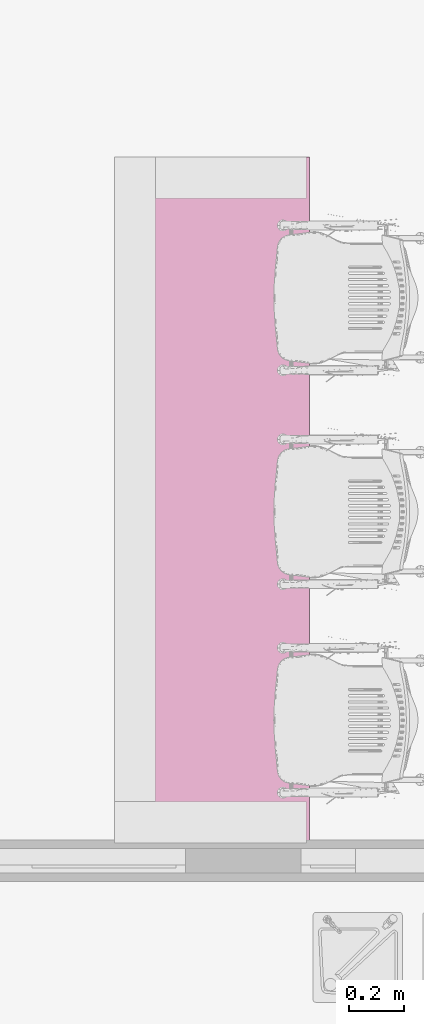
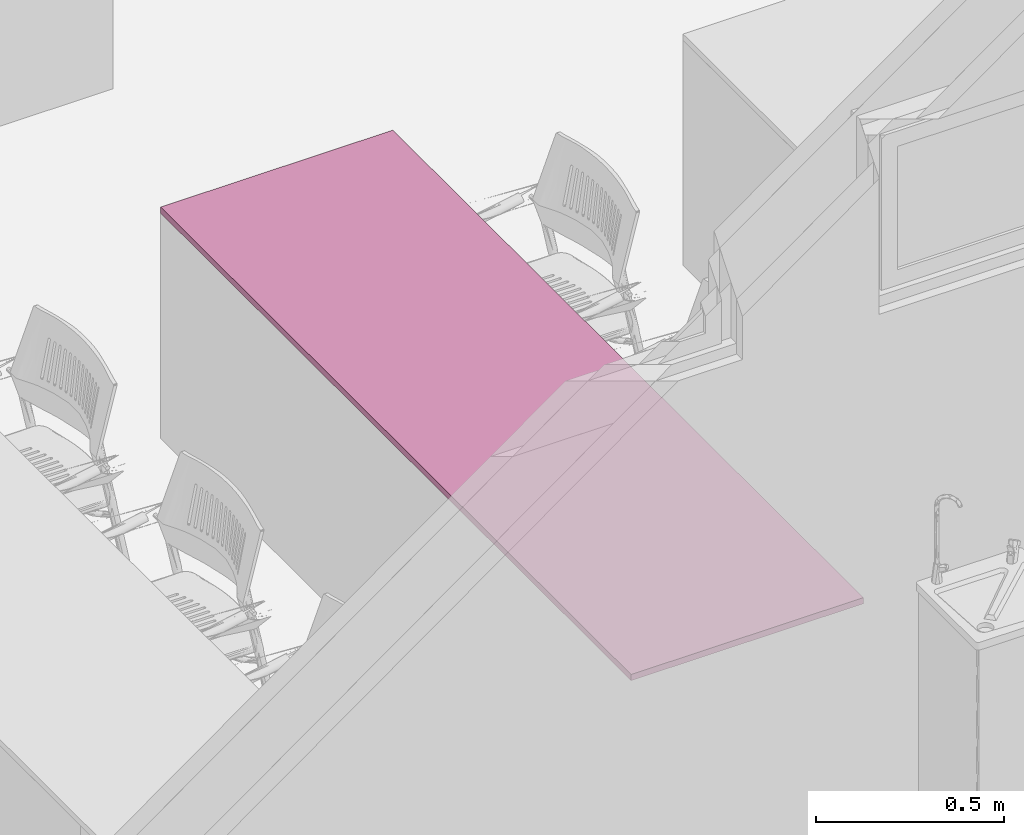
# One storey, part 146 of 155: 1 furnishing.
"""IFC2X3 building model written with IfcOpenShell, lengths in metres."""

import ifcopenshell
import ifcopenshell.guid

model = None  # the IFC model being written
_history = None  # IfcOwnerHistory: only IFC2X3 demands one
_inside = {}  # id of a spatial element -> (the spatial element, [elements in it])
_under = {}  # id of a project, library or spatial element -> (it, [spatial elements below it])
_declared = {}  # id of a project -> (the project, [libraries it declares])
_typed = {}  # id of a type object -> (the type object, [elements of that type])
_made_of = {}  # id of a material, layer set ... -> (it, [elements and type objects made of it])


def new_model(schema):
    """Start an empty IFC model of exactly this schema.

    Asked for "IFC4X3", IfcOpenShell would pick the latest addendum, in which some entities
    have other attributes; the version numbers below select the first issue.
    IFC2X3 requires an IfcOwnerHistory on every rooted entity: one is made here for all.
    """
    global model, _history
    if schema == "IFC4X3":
        model = ifcopenshell.file(schema_version=(4, 3, 0, 0))
    else:
        model = ifcopenshell.file(schema=schema)
    _inside.clear()
    _under.clear()
    _declared.clear()
    _typed.clear()
    _made_of.clear()
    _history = None
    if model.schema == "IFC2X3":
        org = make("IfcOrganization", Name="unknown")
        user = make(
            "IfcPersonAndOrganization",
            ThePerson=make("IfcPerson", FamilyName="unknown"),
            TheOrganization=org,
        )
        app = make(
            "IfcApplication",
            ApplicationDeveloper=org,
            Version="unknown",
            ApplicationFullName="unknown",
            ApplicationIdentifier="unknown",
        )
        _history = make(
            "IfcOwnerHistory",
            OwningUser=user,
            OwningApplication=app,
            ChangeAction="ADDED",
            CreationDate=0,
        )
    return model


def make(cls, **values):
    """One entity of the class cls with the attributes given. An attribute that is None is left unset."""
    return model.create_entity(
        cls, **{name: value for name, value in values.items() if value is not None}
    )


def entity(cls, *values):
    """Any entity or typed value of the class cls, its attributes in the order of the schema. None: left unset."""
    e = model.create_entity(cls)
    for i, value in enumerate(values):
        if value is not None:
            e[i] = value
    return e


def rooted(cls, **values):
    """An entity with a GlobalId (a new one), such as an element, a storey or a relation."""
    return make(cls, GlobalId=ifcopenshell.guid.new(), OwnerHistory=_history, **values)


def si_unit(unit_type, name, prefix=None):
    """IfcSIUnit, for example si_unit("LENGTHUNIT", "METRE", prefix="MILLI")."""
    return make("IfcSIUnit", UnitType=unit_type, Prefix=prefix, Name=name)


def converted_unit(unit_type, name, factor, base, dimensions=None, offset=None):
    """IfcConversionBasedUnit, such as the inch: factor (a typed value) times the base unit."""
    return make(
        "IfcConversionBasedUnit"
        if offset is None
        else "IfcConversionBasedUnitWithOffset",
        ConversionOffset=offset,
        Dimensions=None
        if dimensions is None
        else entity("IfcDimensionalExponents", *dimensions),
        UnitType=unit_type,
        Name=name,
        ConversionFactor=make(
            "IfcMeasureWithUnit", ValueComponent=factor, UnitComponent=base
        ),
    )


def derived_unit(unit_type, elements):
    """IfcDerivedUnit: a product of units, each with its exponent."""
    return make(
        "IfcDerivedUnit",
        Elements=[
            make("IfcDerivedUnitElement", Unit=unit, Exponent=power)
            for unit, power in elements
        ],
        UnitType=unit_type,
    )


def assignment(units):
    """IfcUnitAssignment: the units of a project."""
    return None if units is None else make("IfcUnitAssignment", Units=units)


def point(xyz):
    """IfcCartesianPoint."""
    return None if xyz is None else make("IfcCartesianPoint", Coordinates=xyz)


def direction(xyz):
    """IfcDirection."""
    return None if xyz is None else make("IfcDirection", DirectionRatios=xyz)


def frame(location, z_axis=None, x_axis=None):
    """IfcAxis2Placement3D, a coordinate frame: its origin and axes. An axis left out is left unset."""
    return make(
        "IfcAxis2Placement3D",
        Location=point(location),
        Axis=direction(z_axis),
        RefDirection=direction(x_axis),
    )


def frame_2d(location, x_axis=None):
    """IfcAxis2Placement2D, a coordinate frame in the plane: its origin and x axis."""
    return make(
        "IfcAxis2Placement2D", Location=point(location), RefDirection=direction(x_axis)
    )


def origin():
    """The frame at (0, 0, 0) with its axes left unset."""
    return frame((0.0, 0.0, 0.0))


def place(relative_to, where):
    """IfcLocalPlacement: puts the frame where relative to a parent placement (None: the world)."""
    return make(
        "IfcLocalPlacement", PlacementRelTo=relative_to, RelativePlacement=where
    )


def context(
    kind, dimensions, precision=None, world=None, true_north=None, identifier=None
):
    """IfcGeometricRepresentationContext, for example the 3D "Model" context."""
    return make(
        "IfcGeometricRepresentationContext",
        ContextIdentifier=identifier,
        ContextType=kind,
        CoordinateSpaceDimension=dimensions,
        Precision=precision,
        WorldCoordinateSystem=world,
        TrueNorth=true_north,
    )


def subcontext(parent, identifier, kind, view, scale=None):
    """IfcGeometricRepresentationSubContext, for example "Body" below "Model"."""
    return make(
        "IfcGeometricRepresentationSubContext",
        ContextIdentifier=identifier,
        ContextType=kind,
        ParentContext=parent,
        TargetScale=scale,
        TargetView=view,
    )


def project(units=None, contexts=None):
    """IfcProject with its units and contexts."""
    return rooted(
        "IfcProject",
        Name="project",
        RepresentationContexts=contexts,
        UnitsInContext=assignment(units),
    )


def spatial(cls, under=None, at=None, **own):
    """A site, building, storey or space (cls), placed at a placement, below another one or the project."""
    s = rooted(cls, ObjectPlacement=at, **own)
    if under is not None:
        _under.setdefault(under.id(), (under, []))[1].append(s)
    return s


def profile(cls, at=None, kind="AREA", **sizes):
    """A parametric profile (cls). Its sizes go by their IFC names, for example OverallWidth=200.0."""
    return make(cls, ProfileType=kind, Position=at, **sizes)


def rectangle(**sizes):
    """IfcRectangleProfileDef."""
    return profile("IfcRectangleProfileDef", **sizes)


def extrude(swept, where, along, depth):
    """IfcExtrudedAreaSolid: the profile swept, set in the frame where, extruded along a direction by depth."""
    return make(
        "IfcExtrudedAreaSolid",
        SweptArea=swept,
        Position=where,
        ExtrudedDirection=direction(along),
        Depth=depth,
    )


def shape(context_of_items, identifier, shape_type, items):
    """IfcShapeRepresentation: the items that make up one representation, for example the "Body"."""
    return make(
        "IfcShapeRepresentation",
        ContextOfItems=context_of_items,
        RepresentationIdentifier=identifier,
        RepresentationType=shape_type,
        Items=items,
    )


def source(mapping_origin, context_of_items, identifier, shape_type, items):
    """IfcRepresentationMap: a shape defined once, which mapped items show again and again."""
    return make(
        "IfcRepresentationMap",
        MappingOrigin=mapping_origin,
        MappedRepresentation=shape(context_of_items, identifier, shape_type, items),
    )


def transform(
    local_origin,
    x_axis=None,
    y_axis=None,
    z_axis=None,
    scale=None,
    scale2=None,
    scale3=None,
    uniform=True,
):
    """IfcCartesianTransformationOperator3D, or its non-uniform kind. x_axis, y_axis, z_axis: its Axis1, 2, 3."""
    if uniform:
        return make(
            "IfcCartesianTransformationOperator3D",
            Axis1=direction(x_axis),
            Axis2=direction(y_axis),
            LocalOrigin=point(local_origin),
            Scale=scale,
            Axis3=direction(z_axis),
        )
    return make(
        "IfcCartesianTransformationOperator3DnonUniform",
        Axis1=direction(x_axis),
        Axis2=direction(y_axis),
        LocalOrigin=point(local_origin),
        Scale=scale,
        Axis3=direction(z_axis),
        Scale2=scale2,
        Scale3=scale3,
    )


def mapped(mapping_source, mapping_target):
    """IfcMappedItem: shows the shape of a source again, moved by a transform."""
    return make(
        "IfcMappedItem", MappingSource=mapping_source, MappingTarget=mapping_target
    )


def made_of(thing, what):
    """Note that an element or type object is made of a material, layer set ...; save() writes the relation."""
    if what is not None:
        _made_of.setdefault(what.id(), (what, []))[1].append(thing)
    return thing


def type_object(cls, material=None, **own):
    """A type object (cls), such as IfcWallType, which elements share."""
    return made_of(rooted(cls, **own), material)


def type_shapes(of_type, sources):
    """Give a type object the sources (RepresentationMaps) that its elements show as mapped items."""
    of_type.RepresentationMaps = sources


def element(
    cls,
    number,
    at=None,
    inside=None,
    cuts=None,
    type_object=None,
    material=None,
    context=None,
    identifier="Body",
    shape_type=None,
    held_by="IfcProductDefinitionShape",
    body=None,
    shapes=None,
    **own,
):
    """One element of the class cls, such as IfcWall. Its Tag is "e" and its number.

    at: its placement. inside: the storey or other place that contains it. cuts: it is an
    opening in that element (IfcRelVoidsElement). A single representation is given by context,
    identifier, shape_type and body (its items); several are given by shapes. held_by: the class
    of the entity that holds the representations. save() writes the other relations.
    """
    e = rooted(cls, Tag="e%d" % number, ObjectPlacement=at, **own)
    if body is not None:
        shapes = [shape(context, identifier, shape_type, body)]
    if shapes is not None:
        e.Representation = make(held_by, Representations=shapes)
    if inside is not None:
        _inside.setdefault(inside.id(), (inside, []))[1].append(e)
    if cuts is not None:
        rooted(
            "IfcRelVoidsElement", RelatingBuildingElement=cuts, RelatedOpeningElement=e
        )
    if type_object is not None:
        _typed.setdefault(type_object.id(), (type_object, []))[1].append(e)
    return made_of(e, material)


def aggregate(whole, parts):
    """IfcRelAggregates: a whole, such as a stair, and the parts it consists of."""
    return rooted("IfcRelAggregates", RelatingObject=whole, RelatedObjects=parts)


def save(model, path):
    """Write the relations noted so far, then the file.

    IfcRelAggregates (storeys below a building ...), IfcRelContainedInSpatialStructure (elements
    in a storey), IfcRelDefinesByType, IfcRelAssociatesMaterial and IfcRelDeclares: one each for
    every whole, place, type object, material and project.
    """
    for whole, parts in _under.values():
        aggregate(whole, parts)
    for where, things in _inside.values():
        rooted(
            "IfcRelContainedInSpatialStructure",
            RelatedElements=things,
            RelatingStructure=where,
        )
    for kind, things in _typed.values():
        rooted("IfcRelDefinesByType", RelatedObjects=things, RelatingType=kind)
    for what, things in _made_of.values():
        rooted("IfcRelAssociatesMaterial", RelatedObjects=things, RelatingMaterial=what)
    for by, libraries in _declared.values():
        rooted("IfcRelDeclares", RelatingContext=by, RelatedDefinitions=libraries)
    model.write(path)


model = new_model("IFC2X3")

# Units and contexts
model_context = context("Model", 3, precision=1e-05, world=origin(), true_north=direction((6.12303176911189e-17, 1.0)))
body_context = subcontext(model_context, "Body", "Model", "MODEL_VIEW")
ifc_project = project(units=[si_unit("LENGTHUNIT", "METRE"), si_unit("AREAUNIT", "SQUARE_METRE"), si_unit("VOLUMEUNIT", "CUBIC_METRE"), converted_unit("PLANEANGLEUNIT", "DEGREE", entity("IfcRatioMeasure", 0.0174532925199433), si_unit("PLANEANGLEUNIT", "RADIAN"), dimensions=[0, 0, 0, 0, 0, 0, 0]), si_unit("MASSUNIT", "GRAM", prefix="KILO"), derived_unit("MASSDENSITYUNIT", [(si_unit("MASSUNIT", "GRAM", prefix="KILO"), 1), (si_unit("LENGTHUNIT", "METRE"), -3)]), si_unit("TIMEUNIT", "SECOND"), si_unit("FREQUENCYUNIT", "HERTZ"), si_unit("THERMODYNAMICTEMPERATUREUNIT", "DEGREE_CELSIUS"), derived_unit("THERMALTRANSMITTANCEUNIT", [(si_unit("MASSUNIT", "GRAM", prefix="KILO"), 1), (si_unit("THERMODYNAMICTEMPERATUREUNIT", "KELVIN"), -1), (si_unit("TIMEUNIT", "SECOND"), -3)]), derived_unit("VOLUMETRICFLOWRATEUNIT", [(si_unit("LENGTHUNIT", "METRE"), 3), (si_unit("TIMEUNIT", "SECOND"), -1)]), si_unit("ELECTRICCURRENTUNIT", "AMPERE"), si_unit("ELECTRICVOLTAGEUNIT", "VOLT"), si_unit("POWERUNIT", "WATT"), si_unit("FORCEUNIT", "NEWTON", prefix="KILO"), si_unit("ILLUMINANCEUNIT", "LUX"), si_unit("LUMINOUSFLUXUNIT", "LUMEN"), si_unit("LUMINOUSINTENSITYUNIT", "CANDELA"), derived_unit("USERDEFINED", [(si_unit("MASSUNIT", "GRAM", prefix="KILO"), -1), (si_unit("LENGTHUNIT", "METRE"), -2), (si_unit("TIMEUNIT", "SECOND"), 3), (si_unit("LUMINOUSFLUXUNIT", "LUMEN"), 1)]), derived_unit("LINEARVELOCITYUNIT", [(si_unit("LENGTHUNIT", "METRE"), 1), (si_unit("TIMEUNIT", "SECOND"), -1)]), si_unit("PRESSUREUNIT", "PASCAL"), derived_unit("USERDEFINED", [(si_unit("LENGTHUNIT", "METRE"), -2), (si_unit("MASSUNIT", "GRAM", prefix="KILO"), 1), (si_unit("TIMEUNIT", "SECOND"), -2)])], contexts=[model_context])

# Site, building, storey, space
site_placement = place(None, frame((26.9889013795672, -17.5624287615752, 0.0)))
site = spatial("IfcSite", under=ifc_project, at=site_placement, Name="Default", CompositionType="ELEMENT")
building_placement = place(site_placement, origin())
building = spatial("IfcBuilding", under=site, at=building_placement, Name="C. C. L. Monsenhor Antônio Sampaio", CompositionType="ELEMENT")
storey_placement = place(building_placement, frame((0.0, 0.0, 1.19999999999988)))
storey = spatial("IfcBuildingStorey", under=building, at=storey_placement, Name="Nível 1.2", CompositionType="ELEMENT", Elevation=1.19999999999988)
space_placement = place(storey_placement, origin())
space = spatial("IfcSpace", under=storey, at=space_placement, Name="89", CompositionType="ELEMENT", InteriorOrExteriorSpace="INTERNAL")

# Furnishing
furniture_type = type_object("IfcFurnitureType", Name="Bancada")
shared_shape = source(origin(), body_context, "Body", "SweptSolid", [
    extrude(rectangle(XDim=0.712499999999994, YDim=2.5, at=frame_2d((0.0, -1.11022302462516e-15), x_axis=(1.0, 0.0))), frame((8.88069770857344, -15.5130663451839, 1.92999999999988)), (0.0, 0.0, 1.0), 0.0200000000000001),
])
type_shapes(furniture_type, [shared_shape])
furnishing_placement = place(space_placement, frame((0.0, 0.0, -1.19999999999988)))
element("IfcFurnishingElement", 1, at=furnishing_placement, inside=space, type_object=furniture_type, Name="Bancada_balcao:Bancada", ObjectType="Bancada", context=body_context, shape_type="MappedRepresentation", body=[
    mapped(shared_shape, transform((0.0, 0.0, 0.0), scale=1.0)),
])

save(model, "model.ifc")
